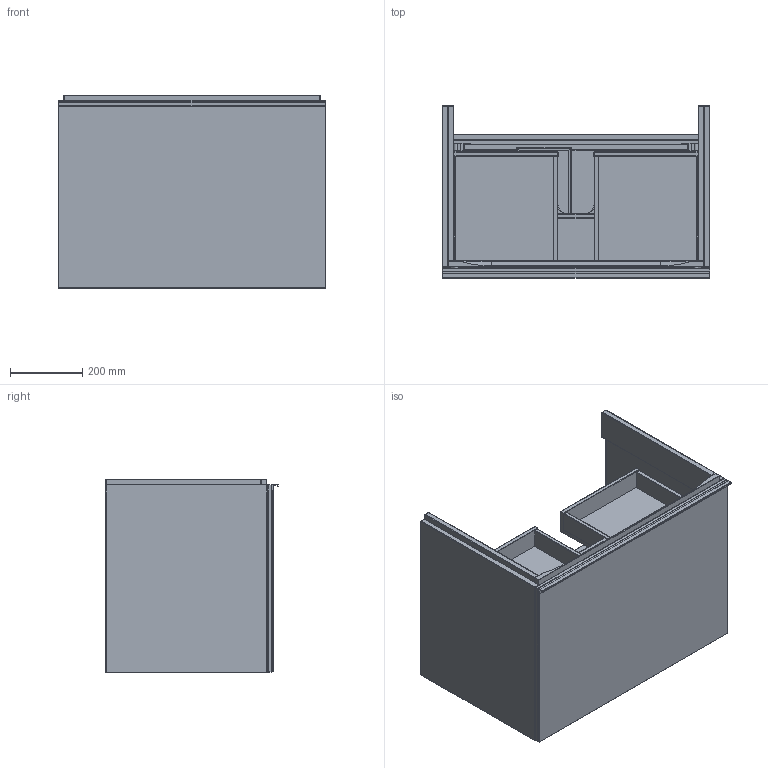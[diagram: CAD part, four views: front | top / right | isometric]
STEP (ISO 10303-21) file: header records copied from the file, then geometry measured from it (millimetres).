
FILE_DESCRIPTION(/* description */ (''),/* implementation_level */ '2;1');
FILE_NAME(/* name */ 'C:\Planerdaten\Export PLA\500.611.01.1\stp\500611.stp',/* time_stamp */ '2020-02-24T08:17:45+01:00',/* author */ ('seihe2'),/* organization */ (''),/* preprocessor_version */ 'ST-DEVELOPER v16.13',/* originating_system */ 'Autodesk Inventor 2018',/* authorisation */ '');
FILE_SCHEMA (('AUTOMOTIVE_DESIGN { 1 0 10303 214 3 1 1 }'));
Length unit declared in the file: millimetre
Products named in the file (1): US-f-1-WT Ge+Acn B75 1-Schbl
Bounding box: 740 x 476 x 535 mm (x, y, z)
Volume: 31660786.2 mm3; surface area: 4758180 mm2
Topology: 3 solids, 4 shells, 627 faces, 1506 edges, 792 vertices
Faces by surface type: plane 297, cylinder 224, sphere 88, torus 10, bspline 4, cone 4
Full cylindrical faces by diameter (mm): 3 x4, 10 x2
Entity records: 17976 total; most frequent: CARTESIAN_POINT 3264, DIRECTION 3050, ORIENTED_EDGE 2812, EDGE_CURVE 1406, AXIS2_PLACEMENT_3D 1032, LINE 986, VECTOR 986, VERTEX_POINT 790
